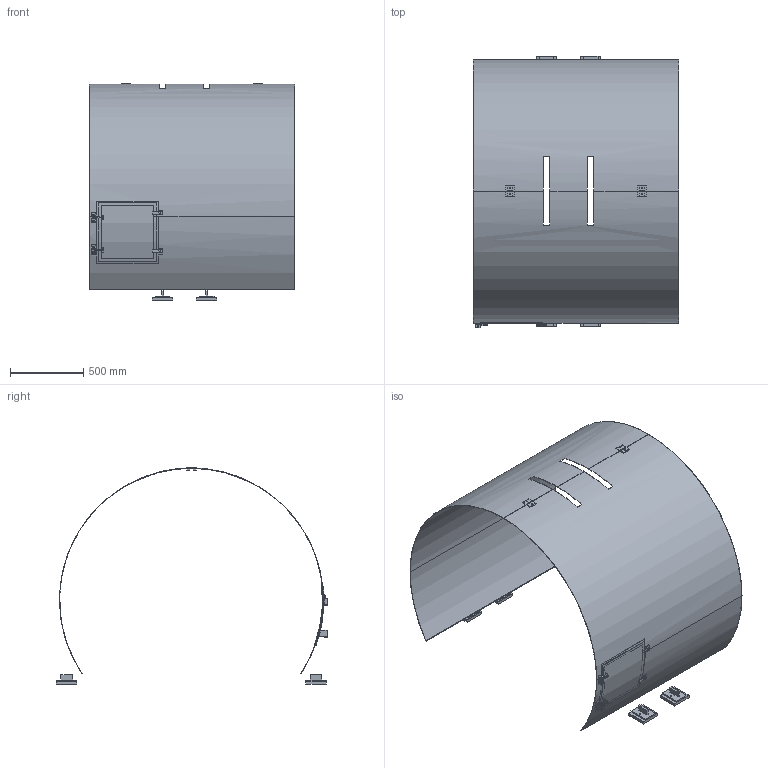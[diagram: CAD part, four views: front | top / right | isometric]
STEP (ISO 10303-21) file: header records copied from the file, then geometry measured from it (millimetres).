
FILE_DESCRIPTION(('Open CASCADE Model'),'2;1');
FILE_NAME('Open CASCADE Shape Model','2026-10-19T20:02:24',('Author'),( 'Open CASCADE'),'Open CASCADE STEP processor 7.8','Open CASCADE 7.8' ,'Unknown');
FILE_SCHEMA(('AUTOMOTIVE_DESIGN { 1 0 10303 214 1 1 1 1 }'));
Length unit declared in the file: millimetre
Products named in the file (45): Open CASCADE STEP translator 7.8 1; Open CASCADE STEP translator 7.8 1.1; Open CASCADE STEP translator 7.8 1.2; Open CASCADE STEP translator 7.8 1.3; Open CASCADE STEP translator 7.8 1.4; Open CASCADE STEP translator 7.8 1.5; Open CASCADE STEP translator 7.8 1.6; Open CASCADE STEP translator 7.8 1.7; Open CASCADE STEP translator 7.8 1.8; Open CASCADE STEP translator 7.8 1.9; Open CASCADE STEP translator 7.8 1.10; Open CASCADE STEP translator 7.8 1.11; Open CASCADE STEP translator 7.8 1.12; Open CASCADE STEP translator 7.8 1.13; Open CASCADE STEP translator 7.8 1.14; Open CASCADE STEP translator 7.8 1.15; Open CASCADE STEP translator 7.8 1.16; Open CASCADE STEP translator 7.8 1.17; Open CASCADE STEP translator 7.8 1.18; Open CASCADE STEP translator 7.8 1.19; Open CASCADE STEP translator 7.8 1.20; Open CASCADE STEP translator 7.8 1.21; Open CASCADE STEP translator 7.8 1.22; Open CASCADE STEP translator 7.8 1.23; Open CASCADE STEP translator 7.8 1.24; Open CASCADE STEP translator 7.8 1.25; Open CASCADE STEP translator 7.8 1.26; Open CASCADE STEP translator 7.8 1.27; Open CASCADE STEP translator 7.8 1.28; Open CASCADE STEP translator 7.8 1.29; Open CASCADE STEP translator 7.8 1.30; Open CASCADE STEP translator 7.8 1.31; Open CASCADE STEP translator 7.8 1.32; Open CASCADE STEP translator 7.8 1.33; Open CASCADE STEP translator 7.8 1.34; Open CASCADE STEP translator 7.8 1.35; Open CASCADE STEP translator 7.8 1.36; Open CASCADE STEP translator 7.8 1.37; Open CASCADE STEP translator 7.8 1.38; Open CASCADE STEP translator 7.8 1.39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
Assembly tree (44 placements, depth 2):
  Open CASCADE STEP translator 7.8 1
    Open CASCADE STEP translator 7.8 1.1
    Open CASCADE STEP translator 7.8 1.2
    Open CASCADE STEP translator 7.8 1.3
    Open CASCADE STEP translator 7.8 1.4
    Open CASCADE STEP translator 7.8 1.5
    Open CASCADE STEP translator 7.8 1.6
    Open CASCADE STEP translator 7.8 1.7
    Open CASCADE STEP translator 7.8 1.8
    Open CASCADE STEP translator 7.8 1.9
    Open CASCADE STEP translator 7.8 1.10
    Open CASCADE STEP translator 7.8 1.11
    Open CASCADE STEP translator 7.8 1.12
    Open CASCADE STEP translator 7.8 1.13
    Open CASCADE STEP translator 7.8 1.14
    Open CASCADE STEP translator 7.8 1.15
    Open CASCADE STEP translator 7.8 1.16
    Open CASCADE STEP translator 7.8 1.17
    Open CASCADE STEP translator 7.8 1.18
    Open CASCADE STEP translator 7.8 1.19
    Open CASCADE STEP translator 7.8 1.20
    Open CASCADE STEP translator 7.8 1.21
    Open CASCADE STEP translator 7.8 1.22
    Open CASCADE STEP translator 7.8 1.23
    Open CASCADE STEP translator 7.8 1.24
    Open CASCADE STEP translator 7.8 1.25
    Open CASCADE STEP translator 7.8 1.26
    Open CASCADE STEP translator 7.8 1.27
    Open CASCADE STEP translator 7.8 1.28
    Open CASCADE STEP translator 7.8 1.29
    Open CASCADE STEP translator 7.8 1.30
    Open CASCADE STEP translator 7.8 1.31
    Open CASCADE STEP translator 7.8 1.32
    Open CASCADE STEP translator 7.8 1.33
    Open CASCADE STEP translator 7.8 1.34
    Open CASCADE STEP translator 7.8 1.35
    Open CASCADE STEP translator 7.8 1.36
    Open CASCADE STEP translator 7.8 1.37
    Open CASCADE STEP translator 7.8 1.38
    Open CASCADE STEP translator 7.8 1.39
    Open CASCADE STEP translator 7.8 1.40
    Open CASCADE STEP translator 7.8 1.41
    Open CASCADE STEP translator 7.8 1.42
    Open CASCADE STEP translator 7.8 1.43
    Open CASCADE STEP translator 7.8 1.44
Bounding box: 1400 x 1848 x 1478 mm (x, y, z)
Volume: 16147485.5 mm3; surface area: 11465994.8 mm2
Topology: 44 solids, 44 shells, 355 faces, 780 edges, 520 vertices
Faces by surface type: plane 269, cylinder 86
Full cylindrical faces by diameter (mm): 5 x4, 6.6 x14, 6.8 x8, 8.4 x2, 8.6 x4, 9 x8, 14 x2
Entity records: 25362 total; most frequent: CARTESIAN_POINT 8610, DIRECTION 2984, LINE 1578, VECTOR 1578, ORIENTED_EDGE 1560, PCURVE 1560, DEFINITIONAL_REPRESENTATION 1560, EDGE_CURVE 780
